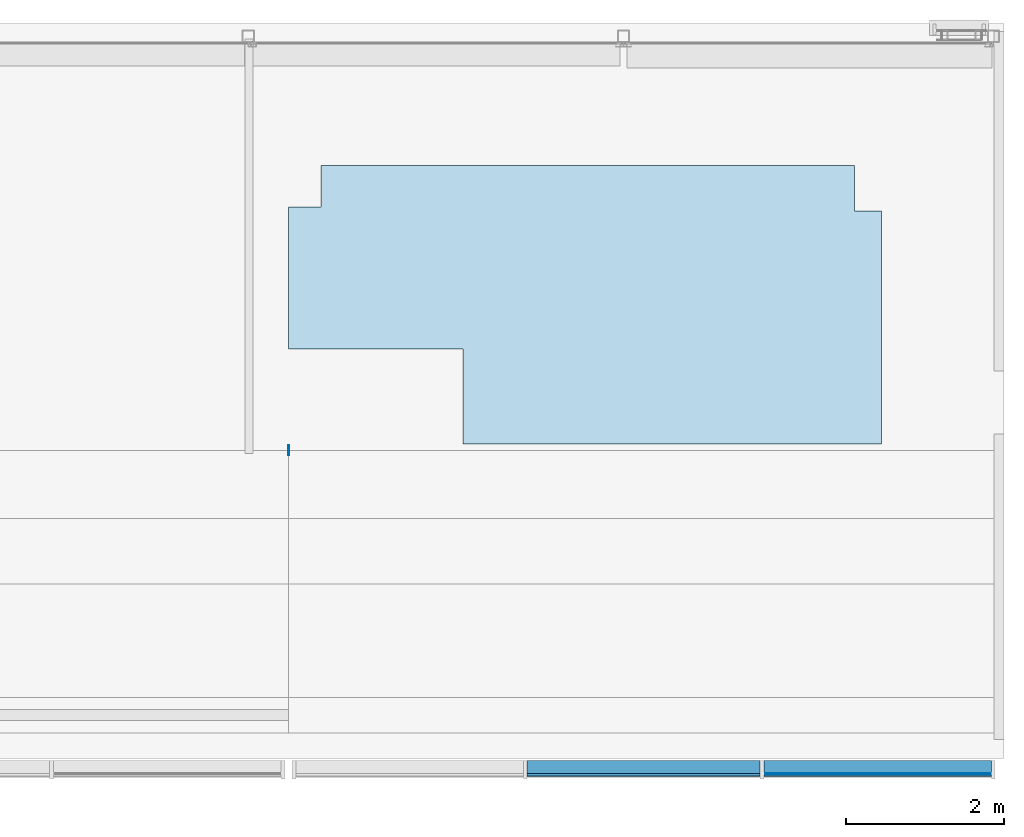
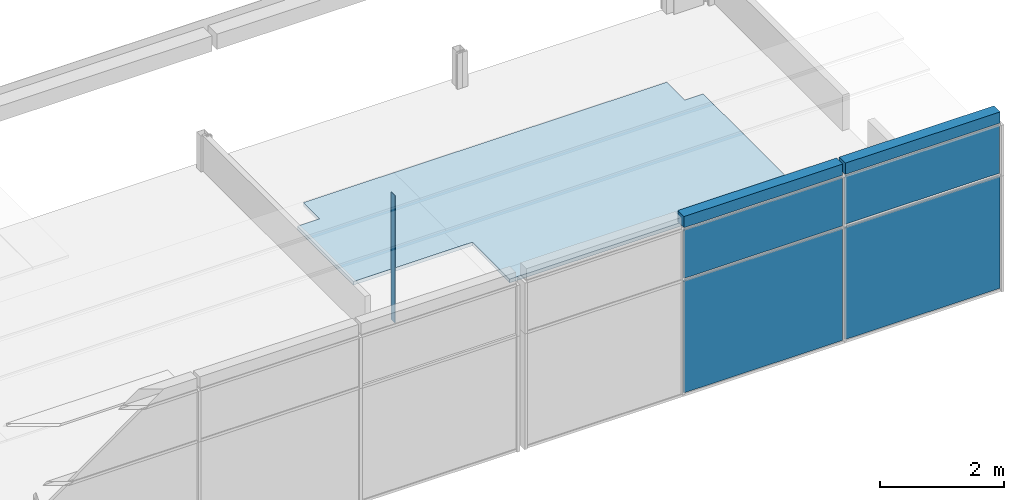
# One storey, part 10 of 26: 7 plates, 1 slab, 2 elements without a shape of their own.
"""IFC2X3 building model written with IfcOpenShell, lengths in millimetres."""

from ifc_helpers import new_model, entity, si_unit, converted_unit, derived_unit, direction, frame, frame_2d, origin, origin_with_axes, origin_2d_with_axis, place, context, subcontext, project, spatial, polyline, rectangle, outline, extrude, source, transform, mapped, material, layer, layer_set, layer_usage, type_object, element, aggregate, save


model = new_model("IFC2X3")

# Units and contexts
model_context = context("Model", 3, precision=0.01, world=frame((0.0, 4.29681676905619e-09, 0.0)), true_north=direction((4.01073788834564e-13, 1.0)))
plan_context = context("Plan", 3, precision=0.01, world=frame((0.0, 4.29681676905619e-09, 0.0)), true_north=direction((4.01073788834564e-13, 1.0)))
body_context = subcontext(model_context, "Body", "Model", "MODEL_VIEW")
ifc_project = project(units=[converted_unit("PLANEANGLEUNIT", "DEGREE", entity("IfcPositiveLengthMeasure", 0.0174532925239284), si_unit("PLANEANGLEUNIT", "RADIAN"), dimensions=[0, 0, 0, 0, 0, 0, 0]), si_unit("AREAUNIT", "SQUARE_METRE"), si_unit("LENGTHUNIT", "METRE", prefix="MILLI"), si_unit("MASSUNIT", "GRAM", prefix="KILO"), si_unit("POWERUNIT", "WATT"), si_unit("PRESSUREUNIT", "PASCAL", prefix="KILO"), si_unit("FORCEUNIT", "NEWTON", prefix="KILO"), si_unit("ELECTRICVOLTAGEUNIT", "VOLT"), si_unit("ELECTRICCURRENTUNIT", "AMPERE"), si_unit("THERMODYNAMICTEMPERATUREUNIT", "DEGREE_CELSIUS"), si_unit("TIMEUNIT", "SECOND"), si_unit("VOLUMEUNIT", "CUBIC_METRE"), derived_unit("LINEARVELOCITYUNIT", [(si_unit("LENGTHUNIT", "METRE"), 1), (si_unit("TIMEUNIT", "SECOND"), -1)]), derived_unit("VOLUMETRICFLOWRATEUNIT", [(si_unit("VOLUMEUNIT", "CUBIC_METRE"), 1), (si_unit("TIMEUNIT", "SECOND"), -1)]), derived_unit("THERMALTRANSMITTANCEUNIT", [(si_unit("POWERUNIT", "WATT"), 1), (si_unit("THERMODYNAMICTEMPERATUREUNIT", "KELVIN"), -1), (si_unit("AREAUNIT", "SQUARE_METRE"), -1)]), derived_unit("SOUNDPRESSUREUNIT", [(si_unit("PRESSUREUNIT", "PASCAL"), 1)])], contexts=[model_context, plan_context])

# Site, building, storey
site_placement = place(None, origin_with_axes())
site = spatial("IfcSite", under=ifc_project, at=site_placement, Name="ENGM", CompositionType="ELEMENT")
building_placement = place(site_placement, origin_with_axes())
building = spatial("IfcBuilding", under=site, at=building_placement, Name="TG", CompositionType="ELEMENT")
storey_placement = place(building_placement, frame((0.0, 0.0, 210200.0), z_axis=(0.0, 0.0, 1.0), x_axis=(1.0, 0.0, 0.0)))
storey = spatial("IfcBuildingStorey", under=building, at=storey_placement, Name="Nivå F - 0,7 m", CompositionType="ELEMENT", Elevation=210200.0)

# Curtain wall, plates
curtain_wall_type_1 = type_object("IfcCurtainWallType", Name="Curtain Wall:A232 - UGV - Glass 30 mm", PredefinedType="NOTDEFINED")
curtain_wall_1_placement = place(storey_placement, frame((0.0, 0.0, -210200.0), z_axis=(0.0, 0.0, 1.0), x_axis=(1.0, 0.0, 0.0)))
curtain_wall_1 = element("IfcCurtainWall", 1, at=curtain_wall_1_placement, inside=storey, type_object=curtain_wall_type_1, Name="Curtain Wall:A232 - UGV - Glass 30 mm", ObjectType="Curtain Wall:A232 - UGV - Glass 30 mm")
ifc_material_1 = material(Name="Glass (Avinor)")
plate_type_1 = type_object("IfcPlateType", Name="System Panel:A234 - Glass - 30 mm", PredefinedType="CURTAIN_PANEL", material=ifc_material_1)
shared_shape_1 = source(origin(), body_context, "Body", "SweptSolid", [
    extrude(rectangle(XDim=30.0, YDim=2949.99999999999, at=origin_2d_with_axis()), frame((0.0, 15.0, 0.0), z_axis=(0.0, 0.0, 1.0), x_axis=(0.0, 1.0, 0.0)), (0.0, 0.0, 1.0), 2200.0),
])
plate_1_placement = place(curtain_wall_1_placement, frame((344499.725000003, 457999.999999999, 210230.0), z_axis=(0.0, 0.0, 1.0), x_axis=(-1.0, 0.0, 0.0)))
plate_1 = element("IfcPlate", 2, at=plate_1_placement, type_object=plate_type_1, material=ifc_material_1, Name="System Panel:A234 - Glass - 30 mm", ObjectType="System Panel:A234 - Glass - 30 mm", context=body_context, shape_type="MappedRepresentation", body=[
    mapped(shared_shape_1, transform((0.0, 0.0, 0.0), scale=1.0)),
])
plate_type_2 = type_object("IfcPlateType", Name="System Panel:A234 - Glass - 30 mm", PredefinedType="CURTAIN_PANEL", material=ifc_material_1)
shared_shape_2 = source(origin(), body_context, "Body", "SweptSolid", [
    extrude(rectangle(XDim=30.0, YDim=2949.99999999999, at=origin_2d_with_axis()), frame((0.0, 15.0, 0.0), z_axis=(0.0, 0.0, 1.0), x_axis=(0.0, 1.0, 0.0)), (0.0, 0.0, 1.0), 950.000000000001),
])
plate_2_placement = place(curtain_wall_1_placement, frame((344499.725000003, 457999.999999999, 212480.0), z_axis=(0.0, 0.0, 1.0), x_axis=(-1.0, 0.0, 0.0)))
plate_2 = element("IfcPlate", 3, at=plate_2_placement, type_object=plate_type_2, material=ifc_material_1, Name="System Panel:A234 - Glass - 30 mm", ObjectType="System Panel:A234 - Glass - 30 mm", context=body_context, shape_type="MappedRepresentation", body=[
    mapped(shared_shape_2, transform((0.0, 0.0, 0.0), scale=1.0)),
])
plate_type_3 = type_object("IfcPlateType", Name="System Panel:A234 - Glass - 30 mm", PredefinedType="CURTAIN_PANEL", material=ifc_material_1)
shared_shape_3 = source(origin(), body_context, "Body", "SweptSolid", [
    extrude(rectangle(XDim=30.0, YDim=2878.77499999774, at=origin_2d_with_axis()), frame((0.0, 15.0, 0.0), z_axis=(0.0, 0.0, 1.0), x_axis=(0.0, 1.0, 0.0)), (0.0, 0.0, 1.0), 2199.99999999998),
])
plate_3_placement = place(curtain_wall_1_placement, frame((347464.112500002, 457999.999999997, 210230.0), z_axis=(0.0, 0.0, 1.0), x_axis=(-1.0, 0.0, 0.0)))
plate_3 = element("IfcPlate", 4, at=plate_3_placement, type_object=plate_type_3, material=ifc_material_1, Name="System Panel:A234 - Glass - 30 mm", ObjectType="System Panel:A234 - Glass - 30 mm", context=body_context, shape_type="MappedRepresentation", body=[
    mapped(shared_shape_3, transform((0.0, 0.0, 0.0), scale=1.0)),
])
plate_type_4 = type_object("IfcPlateType", Name="System Panel:A245 - Glass - 10 mm", PredefinedType="CURTAIN_PANEL", material=ifc_material_1)
shared_shape_4 = source(origin(), body_context, "Body", "SweptSolid", [
    extrude(rectangle(XDim=10.0, YDim=2878.77499999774, at=origin_2d_with_axis()), frame((0.0, 5.0, 0.0), z_axis=(0.0, 0.0, 1.0), x_axis=(0.0, 1.0, 0.0)), (0.0, 0.0, 1.0), 949.999999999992),
])
plate_4_placement = place(curtain_wall_1_placement, frame((347464.112500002, 457999.999999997, 212480.0), z_axis=(0.0, 0.0, 1.0), x_axis=(-1.0, 0.0, 0.0)))
plate_4 = element("IfcPlate", 5, at=plate_4_placement, type_object=plate_type_4, material=ifc_material_1, Name="System Panel:A245 - Glass - 10 mm", ObjectType="System Panel:A245 - Glass - 10 mm", context=body_context, shape_type="MappedRepresentation", body=[
    mapped(shared_shape_4, transform((0.0, 0.0, 0.0), scale=1.0)),
])

# Curtain wall, plate
curtain_wall_type_2 = type_object("IfcCurtainWallType", Name="Curtain Wall:A242 - IGV - Glass - 10 mm", PredefinedType="NOTDEFINED")
curtain_wall_2_placement = place(storey_placement, frame((0.0, 0.0, -210200.0), z_axis=(0.0, 0.0, 1.0), x_axis=(1.0, 0.0, 0.0)))
curtain_wall_2 = element("IfcCurtainWall", 6, at=curtain_wall_2_placement, inside=storey, type_object=curtain_wall_type_2, Name="Curtain Wall:A242 - IGV - Glass - 10 mm", ObjectType="Curtain Wall:A242 - IGV - Glass - 10 mm")
plate_type_5 = type_object("IfcPlateType", Name="System Panel:A245 - Glass - 10 mm", PredefinedType="CURTAIN_PANEL", material=ifc_material_1)
shared_shape_5 = source(origin(), body_context, "Body", "SweptSolid", [
    extrude(rectangle(XDim=10.0, YDim=124.861932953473, at=origin_2d_with_axis()), frame((0.0, 5.0, 0.0), z_axis=(0.0, 0.0, 1.0), x_axis=(0.0, 1.0, 0.0)), (0.0, 0.0, 1.0), 2499.99999999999),
])
plate_5_placement = place(curtain_wall_2_placement, frame((340000.000000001, 462092.569033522, 210200.0), z_axis=(0.0, 0.0, 1.0), x_axis=(0.0, -1.0, 0.0)))
plate_5 = element("IfcPlate", 7, at=plate_5_placement, type_object=plate_type_5, material=ifc_material_1, Name="System Panel:A245 - Glass - 10 mm", ObjectType="System Panel:A245 - Glass - 10 mm", context=body_context, shape_type="MappedRepresentation", body=[
    mapped(shared_shape_5, transform((0.0, 0.0, 0.0), scale=1.0)),
])
aggregate(curtain_wall_2, [plate_5])

# Plate
ifc_material_2 = material(Name="_NSW Aluminium")
ifc_layer_1 = layer(ifc_material_2, 10.0)
ifc_material_3 = material(Name="_NSW Luftspalte")
ifc_layer_2 = layer(ifc_material_3, 25.0)
ifc_layer_3 = layer(ifc_material_3, 45.0)
ifc_material_4 = material(Name="_NSW Isolasjon")
ifc_layer_4 = layer(ifc_material_4, 115.0)
ifc_layer_5 = layer(ifc_material_2, 5.0)
ifc_layer_set_1 = layer_set([ifc_layer_1, ifc_layer_2, ifc_layer_3, ifc_layer_4, ifc_layer_5], Name="Basic Wall:A234 - Blindfelt (eksisterende pir)")
plate_type_6 = type_object("IfcPlateType", Name="Basic Wall:A234 - Blindfelt (eksisterende pir)", PredefinedType="CURTAIN_PANEL", material=ifc_layer_set_1)
plate_6_placement = place(curtain_wall_1_placement, frame((348903.500000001, 458064.999999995, 213480.0), z_axis=(0.0, 0.0, 1.0), x_axis=(-1.0, 0.0, 0.0)))
plate_6 = element("IfcPlate", 8, at=plate_6_placement, type_object=plate_type_6, Name="Basic Wall:A234 - Blindfelt (eksisterende pir)", ObjectType="Basic Wall:A234 - Blindfelt (eksisterende pir)", context=body_context, shape_type="SweptSolid", body=[
    extrude(rectangle(XDim=219.999999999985, YDim=200.000000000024, at=frame_2d((-1.73301373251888e-11, 3.46531692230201e-11), x_axis=(1.0, 0.0))), frame((2878.77499999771, 0.0, 110.0), z_axis=(-1.0, 0.0, 0.0), x_axis=(0.0, 0.0, 1.0)), (0.0, 0.0, 1.0), 2878.77499999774),
])

plate_7_placement = place(curtain_wall_1_placement, frame((345974.725000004, 458064.999999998, 213480.0), z_axis=(0.0, 0.0, 1.0), x_axis=(-1.0, 0.0, 0.0)))
plate_7 = element("IfcPlate", 9, at=plate_7_placement, type_object=plate_type_6, Name="Basic Wall:A234 - Blindfelt (eksisterende pir)", ObjectType="Basic Wall:A234 - Blindfelt (eksisterende pir)", context=body_context, shape_type="SweptSolid", body=[
    extrude(rectangle(XDim=219.999999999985, YDim=200.000000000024, at=frame_2d((-1.73301373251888e-11, 3.46531692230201e-11), x_axis=(1.0, 0.0))), frame((2950.0, 0.0, 110.0), z_axis=(-1.0, 0.0, 0.0), x_axis=(0.0, 0.0, 1.0)), (0.0, 0.0, 1.0), 2949.99999999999),
])

aggregate(curtain_wall_1, [plate_3, plate_1, plate_4, plate_2, plate_6, plate_7])

# Slab
ifc_material_5 = material(Name="T2 - Dekke uten skravur")
ifc_layer_6 = layer(ifc_material_5, 70.0)
ifc_layer_set_2 = layer_set([ifc_layer_6], Name="Floor:A254  - Gulvoppbygging m_f.o - 70mm - stein")
ifc_layer_usage = layer_usage(ifc_layer_set_2, "AXIS3", "POSITIVE", 0.0)
slab_type = type_object("IfcSlabType", Name="Floor:A254  - Gulvoppbygging m_f.o - 70mm - stein", PredefinedType="FLOOR", material=ifc_layer_set_2)
slab_placement = place(storey_placement, origin_with_axes())
element("IfcSlab", 10, at=slab_placement, inside=storey, type_object=slab_type, material=ifc_layer_usage, Name="Floor:A254  - Gulvoppbygging m_f.o - 70mm - stein", ObjectType="Floor:A254  - Gulvoppbygging m_f.o - 70mm - stein", PredefinedType="FLOOR", context=body_context, shape_type="SweptSolid", body=[
    extrude(outline(polyline([(-934.702500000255, -3462.59999998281), (865.297500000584, -3462.59999998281), (865.297500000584, -3049.6000000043), (1390.29749999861, -3049.6000000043), (1390.29749999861, 3709.39999999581), (813.810000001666, 3709.39999999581), (813.810000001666, 4052.39999999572), (-2134.70250000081, 4052.39999999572), (-2134.70250000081, -1249.60000000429), (-934.702500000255, -1249.60000000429), (-934.702500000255, -3462.59999998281)])), frame((343462.599999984, 464309.702500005, 0.0), z_axis=(0.0, 0.0, -1.0), x_axis=(0.0, 1.0, 0.0)), (0.0, 0.0, 1.0), 69.9999999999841),
])

save(model, "model.ifc")
